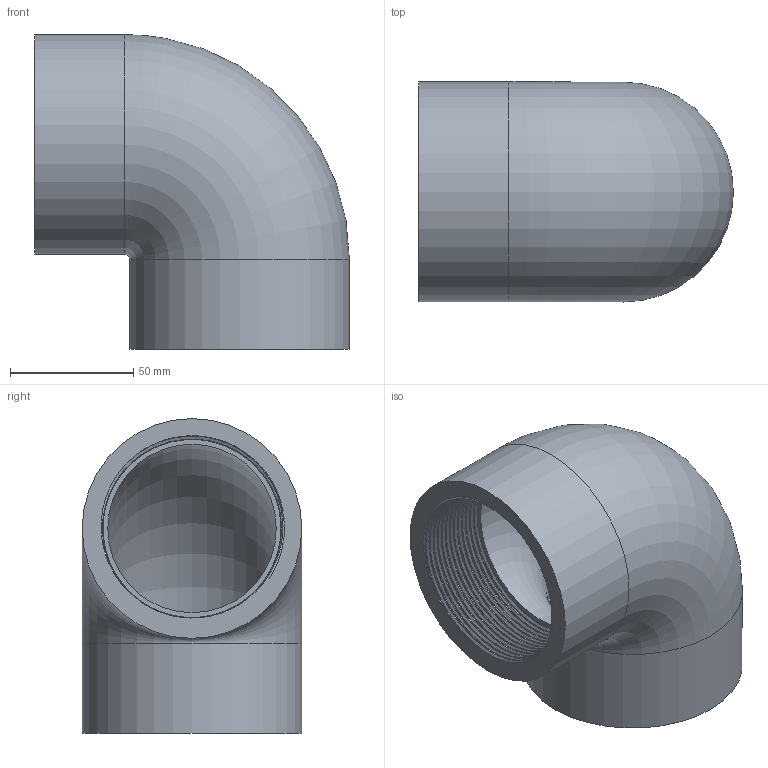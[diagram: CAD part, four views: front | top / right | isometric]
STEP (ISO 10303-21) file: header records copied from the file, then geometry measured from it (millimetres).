
FILE_DESCRIPTION(/* description */ ('PVC gomito a 90° filettato BSP femmina'),/* implementation_level */ '2;1');
FILE_NAME(/* name */ 'C:\Users\POLYPIPE\Desktop\DATASET INVENTOR\LIBRERIA EFFAST\RACCORDI 3DxWEB\RER\3D_RERGOE\3D_RERGOE075H.stp',/* time_stamp */ '2018-01-19T16:18:37+01:00',/* author */ ('POLYPIPE'),/* organization */ ('Polypipe Italia s.r.l.'),/* preprocessor_version */ 'ST-DEVELOPER v16.1',/* originating_system */ 'Autodesk Inventor 2016',/* authorisation */ '');
FILE_SCHEMA (('CONFIG_CONTROL_DESIGN'));
Length unit declared in the file: millimetre
Products named in the file (1): 3D_RERGOE
Bounding box: 127.5 x 89 x 127.5 mm (x, y, z)
Volume: 347747 mm3; surface area: 88937.3 mm2
Topology: 1 solids, 1 shells, 22 faces, 48 edges, 30 vertices
Faces by surface type: bspline 10, plane 6, cylinder 4, torus 2
Full cylindrical faces by diameter (mm): 89 x2
Entity records: 10838 total; most frequent: CARTESIAN_POINT 10403, ORIENTED_EDGE 92, DIRECTION 60, EDGE_CURVE 44, EDGE_LOOP 30, VERTEX_POINT 30, AXIS2_PLACEMENT_3D 27, B_SPLINE_CURVE_WITH_KNOTS 24
